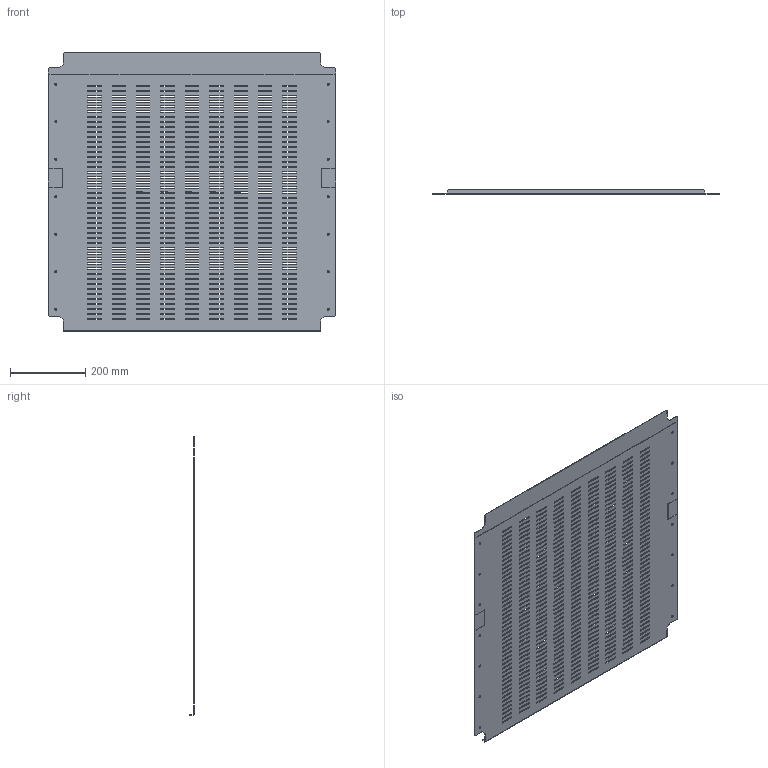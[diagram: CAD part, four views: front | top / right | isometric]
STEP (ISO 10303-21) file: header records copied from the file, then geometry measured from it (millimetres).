
FILE_DESCRIPTION(('CAx-IF Rec.Pracs.---Model Styling and Organization---1.2---2011-12-15','CAx-IF Rec.Pracs.---Geometric and Assembly Validation Properties---4.1---2014-06-16','CAx-IF Rec.Pracs.---PMI Polyline Presentation---2.0---2013-05-24'),'2;1');
FILE_NAME('R5SBB88.stp','2021-05-06T02:26:23+03:00',(''),(''),'STEP Interface 4.4 by CT CoreTechnologie','3D_Evolution4.4 by CT CoreTechnologie','');
FILE_SCHEMA(('AUTOMOTIVE_DESIGN { 1 0 10303 214 1 1 1 1 }'));
Length unit declared in the file: millimetre
Products named in the file (2): R5SBB88; RB.0570.00.00.0_-03(-800x800)
Assembly tree (1 placements, depth 2):
  R5SBB88
    RB.0570.00.00.0_-03(-800x800)
Bounding box: 765 x 11.5 x 742 mm (x, y, z)
Surface area: 1085468.9 mm2 (no closed solid volume)
Topology: 0 solids, 1 shells, 1852 faces, 5546 edges, 3696 vertices
Faces by surface type: plane 1822, cylinder 30
Entity records: 62987 total; most frequent: CARTESIAN_POINT 11096, ORIENTED_EDGE 11092, DIRECTION 9314, EDGE_CURVE 5546, VECTOR 5486, LINE 5486, VERTEX_POINT 3696, EDGE_LOOP 2760
